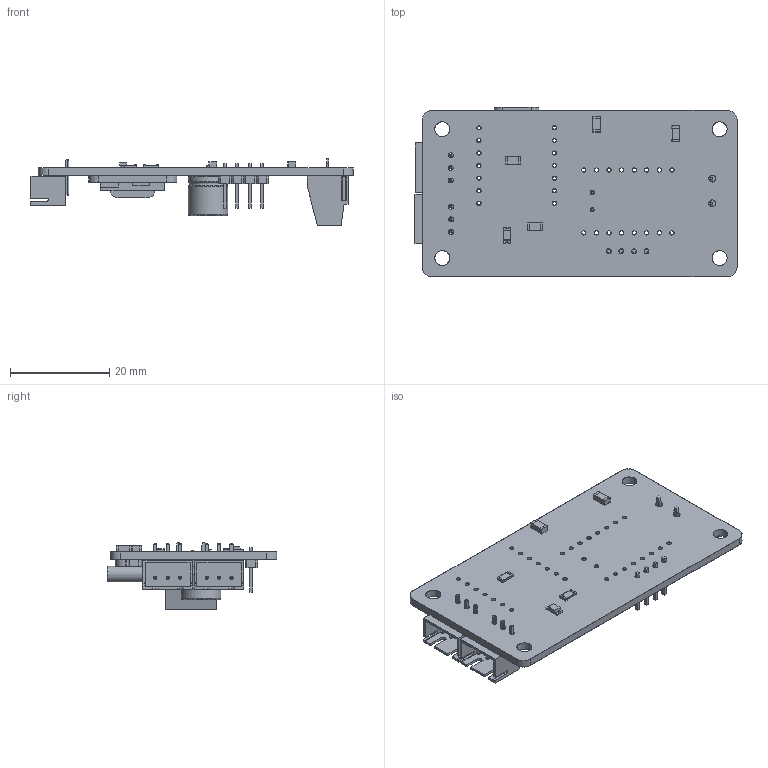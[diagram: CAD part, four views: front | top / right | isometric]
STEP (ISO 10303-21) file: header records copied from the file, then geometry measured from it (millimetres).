
FILE_DESCRIPTION(('KiCad electronic assembly'),'2;1');
FILE_NAME('new_machinewek_12.step','2026-04-16T23:54:57',('Pcbnew'),( 'Kicad'),'Open CASCADE STEP processor 7.9','KiCad to STEP converter' ,'Unknown');
FILE_SCHEMA(('AUTOMOTIVE_DESIGN { 1 0 10303 214 1 1 1 1 }'));
Length unit declared in the file: millimetre
Products named in the file (48): new_machinewek_12 1; Capacitor-1206; Body; Contact; ContactClone; LED-1206; Base; Emmiter; Contact_1; Contact_2; Resistor-1206; Ceramic; Contacts; Contacts (Mirror #1); Overcoat; Seeed_XIAO-nRF52840_Sense; SoC_nRF_Sense; Mic_nRF_Sense; Antenna_nRF_Sense; XIAO_Generic; Board; USB; Contact Clones; Body007; Body008; Body009; Body010; Body011; Body012; Body013; Body014; Body015; Body016; Body017; Body018; Body019; 282837-2; CP_Radial_D8.0mm_P3.50mm; User Library-JST-XH-2_5mm-3; PinHeader-01x04_P2.54mm_Vertical_THT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
Assembly tree (50 placements, depth 5):
  new_machinewek_12 1
    Capacitor-1206  x2
      Body
      Contact
      ContactClone
    LED-1206
      Base
      Emmiter
      Contact_1
      Contact_2
    Resistor-1206  x2
      Ceramic
      Contacts
      Contacts (Mirror #1)
      Overcoat
    Seeed_XIAO-nRF52840_Sense
      SoC_nRF_Sense
      Mic_nRF_Sense
      Antenna_nRF_Sense
      XIAO_Generic
        Board
        USB
        Contact
        Contact Clones
          Body007
          Body008
          Body009
          Body010
          Body011
          Body012
          Body013
          Body014
          Body015
          Body016
          Body017
          Body018
          Body019
    282837-2
    CP_Radial_D8.0mm_P3.50mm
    User Library-JST-XH-2_5mm-3  x2
    PinHeader-01x04_P2.54mm_Vertical_THT
      new_machinewek_12 1.11.1
      new_machinewek_12 1.11.2
      new_machinewek_12 1.11.3
      new_machinewek_12 1.11.4
    new_machinewek_12_soldermask
    new_machinewek_12_soldermask
    new_machinewek_12_PCB
Bounding box: 65.01 x 34.28 x 13.5 mm (x, y, z)
Volume: 5292.5 mm3; surface area: 13137 mm2
Topology: 52 solids, 55 shells, 897 faces, 2403 edges, 1629 vertices
Faces by surface type: plane 601, cylinder 262, bspline 26, revolution 6, torus 2
Full cylindrical faces by diameter (mm): 0.5 x3, 0.7 x14, 0.8 x28, 0.85 x32, 1 x10, 1.4 x2
Entity records: 27637 total; most frequent: CARTESIAN_POINT 5524, DIRECTION 4262, ORIENTED_EDGE 4084, EDGE_CURVE 2115, VERTEX_POINT 1453, LINE 1444, VECTOR 1444, AXIS2_PLACEMENT_3D 1406
